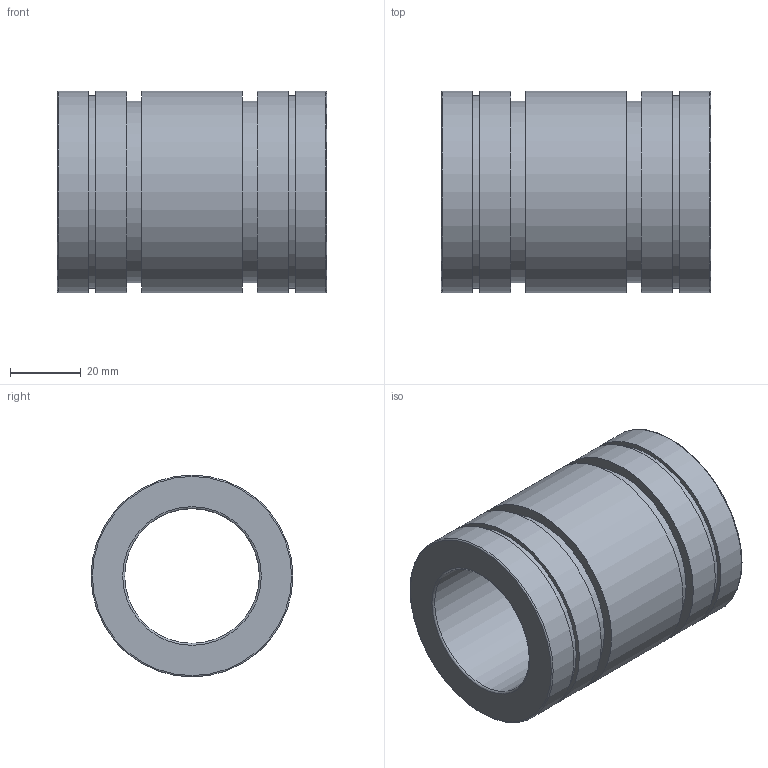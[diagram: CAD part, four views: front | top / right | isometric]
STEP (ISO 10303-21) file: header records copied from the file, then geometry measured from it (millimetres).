
FILE_DESCRIPTION(('STEP AP203'),'1');
FILE_NAME('//192.168.1.1/share/s-4 技術開発/s-4-4_CAD/s-4-4-3_見直し済み/PBC LINEAR修正済み/3D途中/FJ/FJ38.step','2022-03-24T06:52:28',(' '),(' '),'Spatial InterOp 3D',' ',' ');
FILE_SCHEMA(('CONFIG_CONTROL_DESIGN'));
Length unit declared in the file: millimetre
Products named in the file (1): 1
Bounding box: 76 x 57 x 57 mm (x, y, z)
Volume: 102694 mm3; surface area: 28064.7 mm2
Topology: 1 solids, 1 shells, 24 faces, 38 edges, 24 vertices
Faces by surface type: cylinder 10, plane 10, torus 4
Full cylindrical faces by diameter (mm): 38 x1, 51.2 x2, 54.5 x2, 57 x5
Entity records: 532 total; most frequent: DIRECTION 98, CARTESIAN_POINT 73, AXIS2_PLACEMENT_3D 49, EDGE_LOOP 48, ORIENTED_EDGE 48, FACE_OUTER_BOUND 38, ADVANCED_FACE 24, EDGE_CURVE 24
